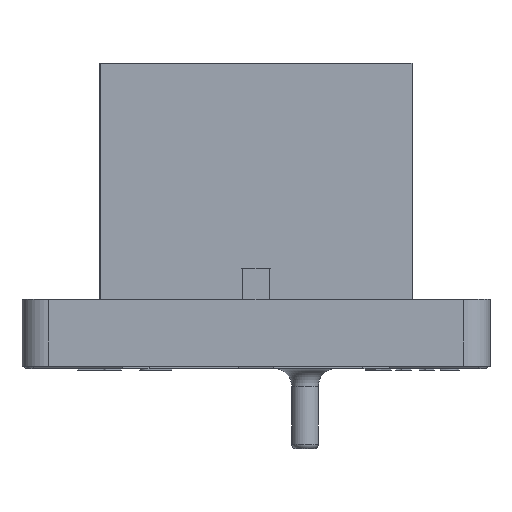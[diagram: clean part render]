
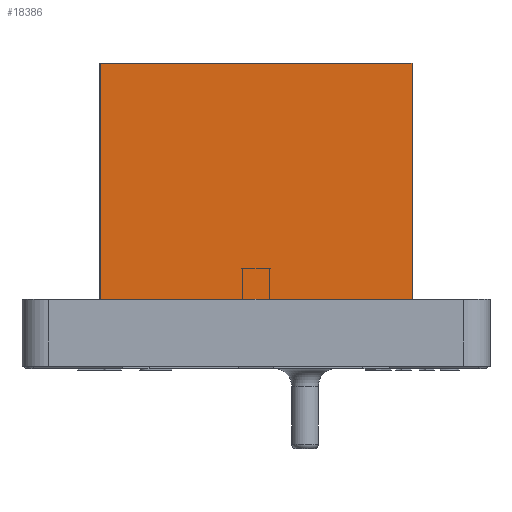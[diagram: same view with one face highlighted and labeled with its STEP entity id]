
A CAD part, front view. The second image highlights one B-rep face of the part: STEP entity #18386.
In plain terms, the highlighted planar face has unit normal (0, -1, 0).
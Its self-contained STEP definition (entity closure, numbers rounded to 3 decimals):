
#11958=CARTESIAN_POINT('',(17.5,-42.75,7.75));
#11959=VERTEX_POINT('',#11958);
#11966=CARTESIAN_POINT('',(-17.5,-42.75,7.75));
#11967=VERTEX_POINT('',#11966);
#11968=CARTESIAN_POINT('',(17.5,-42.75,7.75));
#11969=DIRECTION('',(-1.0,0.0,0.0));
#11970=VECTOR('',#11969,35.0);
#11971=LINE('',#11968,#11970);
#11972=EDGE_CURVE('',#11959,#11967,#11971,.T.);
#18345=CARTESIAN_POINT('',(-17.5,-42.75,34.25));
#18346=VERTEX_POINT('',#18345);
#18347=CARTESIAN_POINT('',(-17.5,-42.75,34.25));
#18348=DIRECTION('',(0.0,0.0,-1.0));
#18349=VECTOR('',#18348,26.5);
#18350=LINE('',#18347,#18349);
#18351=EDGE_CURVE('',#18346,#11967,#18350,.T.);
#18363=CARTESIAN_POINT('',(-17.5,-42.75,34.25));
#18364=DIRECTION('',(0.0,-1.0,0.0));
#18365=DIRECTION('',(0.0,0.0,-1.0));
#18366=AXIS2_PLACEMENT_3D('',#18363,#18364,#18365);
#18367=PLANE('',#18366);
#18368=ORIENTED_EDGE('',*,*,#11972,.F.);
#18369=CARTESIAN_POINT('',(17.5,-42.75,34.25));
#18370=VERTEX_POINT('',#18369);
#18371=CARTESIAN_POINT('',(17.5,-42.75,34.25));
#18372=DIRECTION('',(0.0,0.0,-1.0));
#18373=VECTOR('',#18372,26.5);
#18374=LINE('',#18371,#18373);
#18375=EDGE_CURVE('',#18370,#11959,#18374,.T.);
#18376=ORIENTED_EDGE('',*,*,#18375,.F.);
#18377=CARTESIAN_POINT('',(17.5,-42.75,34.25));
#18378=DIRECTION('',(-1.0,0.0,0.0));
#18379=VECTOR('',#18378,35.0);
#18380=LINE('',#18377,#18379);
#18381=EDGE_CURVE('',#18370,#18346,#18380,.T.);
#18382=ORIENTED_EDGE('',*,*,#18381,.T.);
#18383=ORIENTED_EDGE('',*,*,#18351,.T.);
#18384=EDGE_LOOP('',(#18368,#18376,#18382,#18383));
#18385=FACE_OUTER_BOUND('',#18384,.T.);
#18386=ADVANCED_FACE('',(#18385),#18367,.T.);
